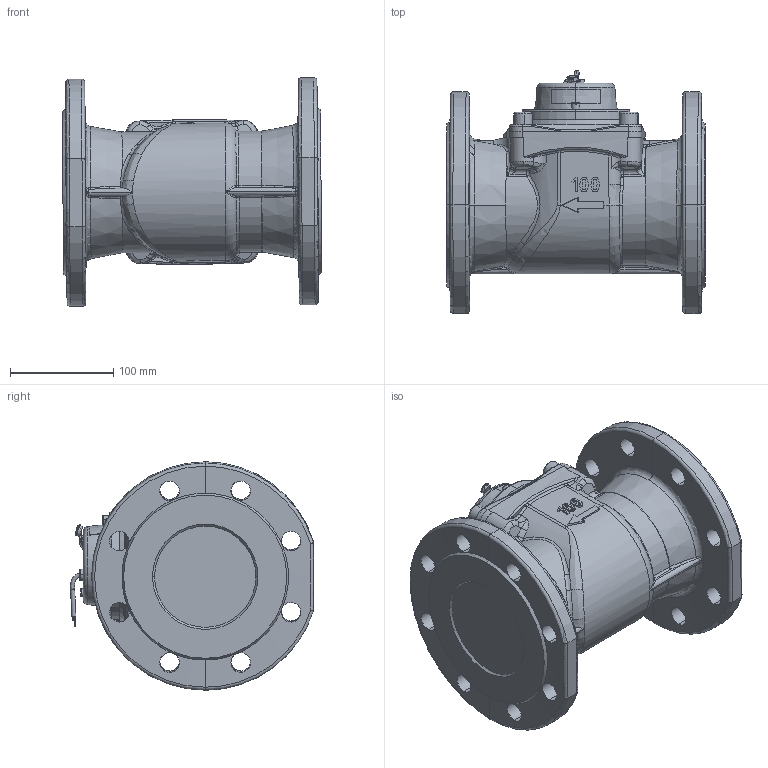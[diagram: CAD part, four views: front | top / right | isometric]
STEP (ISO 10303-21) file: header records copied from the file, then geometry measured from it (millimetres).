
FILE_DESCRIPTION (( 'STEP AP214' ), '1' );
FILE_NAME ('MWN130-100-NC.STEP', '2025-08-01T10:01:25', ( '' ), ( '' ), 'SwSTEP 2.0', 'SolidWorks 2019', '' );
FILE_SCHEMA (( 'AUTOMOTIVE_DESIGN' ));
Length unit declared in the file: millimetre
Products named in the file (1): MWN130-100-NC
Bounding box: 250.88 x 235.53 x 221.32 mm (x, y, z)
Volume: 4641730.7 mm3; surface area: 412862.6 mm2
Topology: 22 solids, 37 shells, 1600 faces, 4119 edges, 2565 vertices
Faces by surface type: plane 542, cylinder 412, bspline 323, cone 194, torus 122, sphere 7
Entity records: 82755 total; most frequent: CARTESIAN_POINT 28672, ORIENTED_EDGE 8110, DIRECTION 6888, EDGE_CURVE 4055, AXIS2_PLACEMENT_3D 2591, VERTEX_POINT 2565, EDGE_LOOP 1736, LINE 1706
